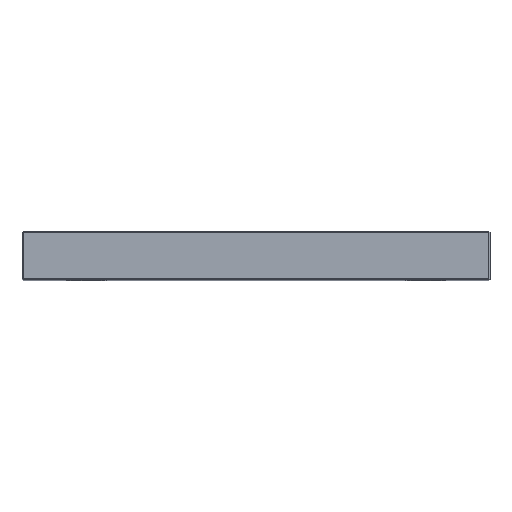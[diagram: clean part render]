
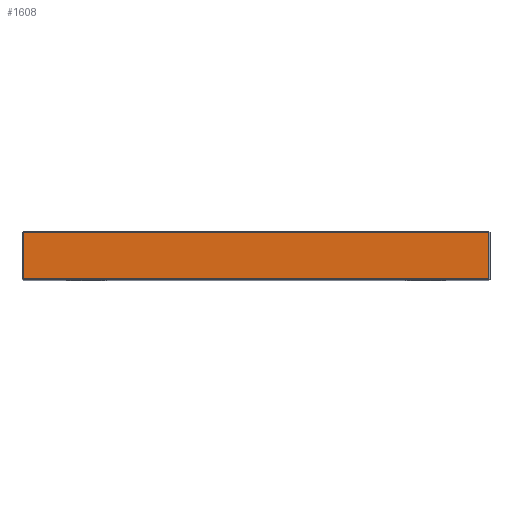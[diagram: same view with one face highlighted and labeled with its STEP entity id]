
A CAD part, top view. The second image highlights one B-rep face of the part: STEP entity #1608.
In plain terms, the highlighted planar face has unit normal (0, 0, 1).
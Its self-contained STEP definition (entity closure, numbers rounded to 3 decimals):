
#66 = EDGE_LOOP ( 'NONE', ( #894, #1541, #1830, #2138 ) ) ;
#96 = VECTOR ( 'NONE', #1900, 1000. ) ;
#123 = LINE ( 'NONE', #1555, #96 ) ;
#168 = CARTESIAN_POINT ( 'NONE',  ( -222., 46., 248. ) ) ;
#327 = LINE ( 'NONE', #168, #359 ) ;
#359 = VECTOR ( 'NONE', #1543, 1000. ) ;
#471 = EDGE_CURVE ( 'NONE', #2184, #1950, #1271, .T. ) ;
#487 = EDGE_CURVE ( 'NONE', #1477, #2184, #634, .T. ) ;
#515 = EDGE_CURVE ( 'NONE', #750, #1477, #327, .T. ) ;
#527 = EDGE_CURVE ( 'NONE', #1950, #750, #123, .T. ) ;
#598 = VECTOR ( 'NONE', #1158, 1000. ) ;
#617 = CARTESIAN_POINT ( 'NONE',  ( 222., 1., 248. ) ) ;
#630 = DIRECTION ( 'NONE',  ( -1., 0., 0. ) ) ;
#634 = LINE ( 'NONE', #1520, #598 ) ;
#644 = DIRECTION ( 'NONE',  ( 0., 0., -1. ) ) ;
#749 = VECTOR ( 'NONE', #1885, 1000. ) ;
#750 = VERTEX_POINT ( 'NONE', #1025 ) ;
#790 = CARTESIAN_POINT ( 'NONE',  ( -222., 1., 248. ) ) ;
#830 = CARTESIAN_POINT ( 'NONE',  ( 223., 46., 248. ) ) ;
#894 = ORIENTED_EDGE ( 'NONE', *, *, #527, .T. ) ;
#1025 = CARTESIAN_POINT ( 'NONE',  ( -222., 45., 248. ) ) ;
#1111 = CARTESIAN_POINT ( 'NONE',  ( 222., 46., 248. ) ) ;
#1158 = DIRECTION ( 'NONE',  ( 1., 0., 0. ) ) ;
#1271 = LINE ( 'NONE', #1111, #749 ) ;
#1477 = VERTEX_POINT ( 'NONE', #790 ) ;
#1520 = CARTESIAN_POINT ( 'NONE',  ( 223., 1., 248. ) ) ;
#1541 = ORIENTED_EDGE ( 'NONE', *, *, #515, .T. ) ;
#1543 = DIRECTION ( 'NONE',  ( 0., -1., 0. ) ) ;
#1555 = CARTESIAN_POINT ( 'NONE',  ( -223., 45., 248. ) ) ;
#1608 = ADVANCED_FACE ( 'NONE', ( #2162 ), #1734, .F. ) ;
#1734 = PLANE ( 'NONE',  #2151 ) ;
#1830 = ORIENTED_EDGE ( 'NONE', *, *, #487, .T. ) ;
#1885 = DIRECTION ( 'NONE',  ( 0., 1., 0. ) ) ;
#1888 = CARTESIAN_POINT ( 'NONE',  ( 222., 45., 248. ) ) ;
#1900 = DIRECTION ( 'NONE',  ( -1., 0., 0. ) ) ;
#1950 = VERTEX_POINT ( 'NONE', #1888 ) ;
#2138 = ORIENTED_EDGE ( 'NONE', *, *, #471, .T. ) ;
#2151 = AXIS2_PLACEMENT_3D ( 'NONE', #830, #644, #630 ) ;
#2162 = FACE_OUTER_BOUND ( 'NONE', #66, .T. ) ;
#2184 = VERTEX_POINT ( 'NONE', #617 ) ;
